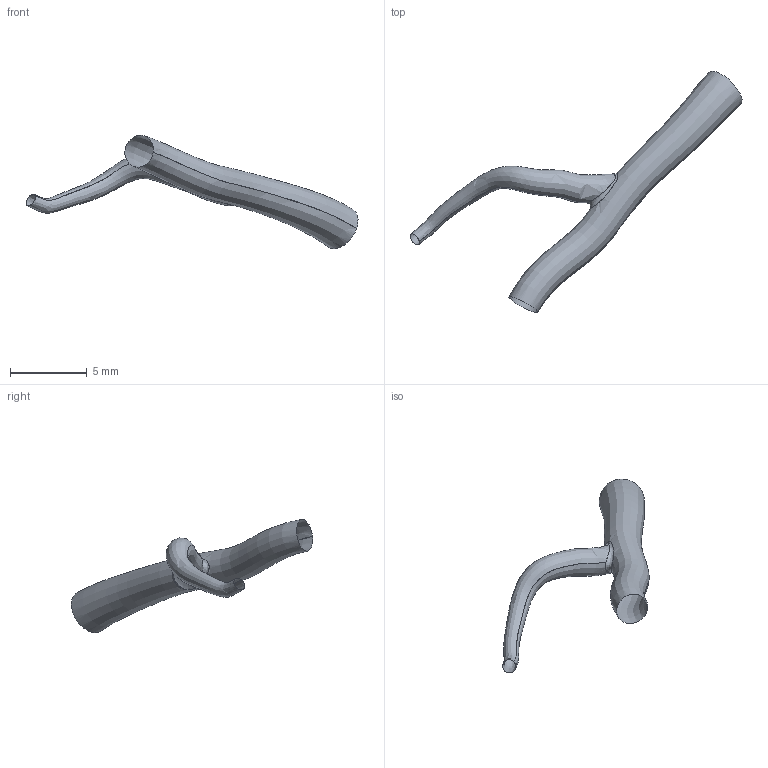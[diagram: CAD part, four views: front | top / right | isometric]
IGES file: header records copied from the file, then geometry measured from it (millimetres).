
Global section: file name: C:\Documents and Settings\Administrator\Desktop\FDA-Pig\Domestic RCA\Pig_000006\avc.es.igs; native system: Rhinoceros ( May 19 2006 ); preprocessor: Trout Lake IGES 012 May 19 2006; date: 111205.185342; units: centimetre
Bounding box: 21.6 x 15.7 x 7.38 mm (x, y, z)
Surface area: 212.7 mm2 (no closed solid volume)
Topology: 0 solids, 0 shells, 3 faces, 49 edges, 46 vertices
Faces by surface type: bspline 3
